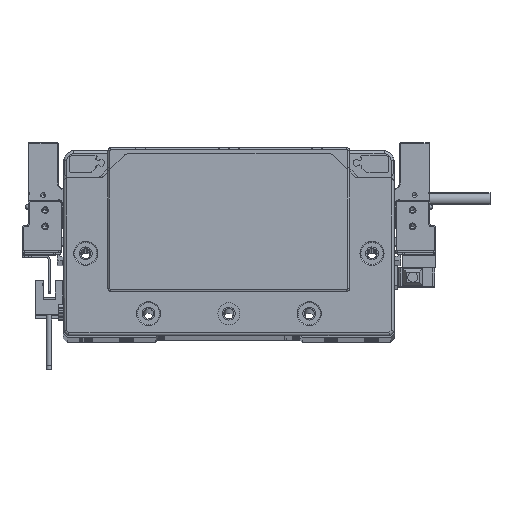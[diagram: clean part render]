
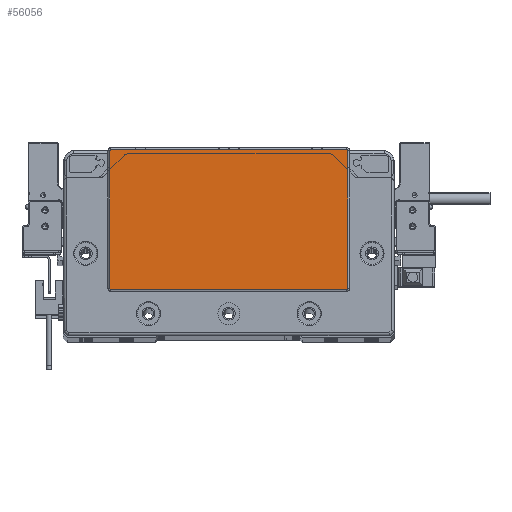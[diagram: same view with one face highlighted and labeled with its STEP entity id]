
A CAD part, top view. The second image highlights one B-rep face of the part: STEP entity #56056.
In plain terms, the highlighted planar face has unit normal (0, 0, 1) as drawn and (0, 0, -1) by its records, which use the part's own axes.
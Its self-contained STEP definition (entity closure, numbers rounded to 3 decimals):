
#1578 = VERTEX_POINT ( 'NONE', #29816 ) ;
#3463 = CARTESIAN_POINT ( 'NONE',  ( -58.75, 45.8, -2. ) ) ;
#4827 = CARTESIAN_POINT ( 'NONE',  ( -59.25, 45.3, -2. ) ) ;
#8332 = ORIENTED_EDGE ( 'NONE', *, *, #13210, .T. ) ;
#8390 = VERTEX_POINT ( 'NONE', #4827 ) ;
#8847 = FACE_OUTER_BOUND ( 'NONE', #54186, .T. ) ;
#9253 = DIRECTION ( 'NONE',  ( 0., -1., 0. ) ) ;
#9456 = LINE ( 'NONE', #96150, #20595 ) ;
#9964 = ORIENTED_EDGE ( 'NONE', *, *, #44891, .T. ) ;
#11448 = AXIS2_PLACEMENT_3D ( 'NONE', #16920, #70950, #94181 ) ;
#11550 = VECTOR ( 'NONE', #84797, 1000. ) ;
#12585 = EDGE_CURVE ( 'NONE', #36979, #1578, #87089, .T. ) ;
#12805 = CARTESIAN_POINT ( 'NONE',  ( 58.75, -23.8, -2. ) ) ;
#13210 = EDGE_CURVE ( 'NONE', #79851, #65577, #80651, .T. ) ;
#15166 = ORIENTED_EDGE ( 'NONE', *, *, #54060, .T. ) ;
#16840 = DIRECTION ( 'NONE',  ( -1., 0., 0. ) ) ;
#16920 = CARTESIAN_POINT ( 'NONE',  ( 0., 0., -2. ) ) ;
#17766 = AXIS2_PLACEMENT_3D ( 'NONE', #85007, #31038, #16840 ) ;
#18352 = CARTESIAN_POINT ( 'NONE',  ( 59.25, -23.3, -2. ) ) ;
#19404 = AXIS2_PLACEMENT_3D ( 'NONE', #57176, #33517, #78941 ) ;
#20595 = VECTOR ( 'NONE', #47811, 1000. ) ;
#23380 = VERTEX_POINT ( 'NONE', #69472 ) ;
#28342 = ORIENTED_EDGE ( 'NONE', *, *, #75053, .T. ) ;
#29816 = CARTESIAN_POINT ( 'NONE',  ( 59.25, 45.3, -2. ) ) ;
#30233 = CARTESIAN_POINT ( 'NONE',  ( -58.75, 45.3, -2. ) ) ;
#30829 = LINE ( 'NONE', #84318, #11550 ) ;
#31038 = DIRECTION ( 'NONE',  ( 0., 0., -1. ) ) ;
#31338 = AXIS2_PLACEMENT_3D ( 'NONE', #30233, #76633, #77127 ) ;
#32234 = ORIENTED_EDGE ( 'NONE', *, *, #65385, .T. ) ;
#33511 = VERTEX_POINT ( 'NONE', #3463 ) ;
#33517 = DIRECTION ( 'NONE',  ( 0., 0., -1. ) ) ;
#36979 = VERTEX_POINT ( 'NONE', #59711 ) ;
#40071 = LINE ( 'NONE', #78417, #56839 ) ;
#40659 = ORIENTED_EDGE ( 'NONE', *, *, #98576, .T. ) ;
#40671 = PLANE ( 'NONE',  #11448 ) ;
#43559 = CIRCLE ( 'NONE', #17766, 0.5 ) ;
#44891 = EDGE_CURVE ( 'NONE', #8390, #33511, #52253, .T. ) ;
#47811 = DIRECTION ( 'NONE',  ( -1., 0., 0. ) ) ;
#49970 = CARTESIAN_POINT ( 'NONE',  ( -58.75, -23.8, -2. ) ) ;
#52060 = ORIENTED_EDGE ( 'NONE', *, *, #57732, .T. ) ;
#52253 = CIRCLE ( 'NONE', #31338, 0.5 ) ;
#54060 = EDGE_CURVE ( 'NONE', #33511, #36979, #30829, .T. ) ;
#54186 = EDGE_LOOP ( 'NONE', ( #52060, #8332, #32234, #40659, #28342, #9964, #15166, #90548 ) ) ;
#56056 = ADVANCED_FACE ( 'NONE', ( #8847 ), #40671, .T. ) ;
#56839 = VECTOR ( 'NONE', #9253, 1000. ) ;
#57176 = CARTESIAN_POINT ( 'NONE',  ( 58.75, -23.3, -2. ) ) ;
#57732 = EDGE_CURVE ( 'NONE', #1578, #79851, #40071, .T. ) ;
#59711 = CARTESIAN_POINT ( 'NONE',  ( 58.75, 45.8, -2. ) ) ;
#65385 = EDGE_CURVE ( 'NONE', #65577, #99185, #9456, .T. ) ;
#65577 = VERTEX_POINT ( 'NONE', #12805 ) ;
#69154 = DIRECTION ( 'NONE',  ( 0., 1., 0. ) ) ;
#69472 = CARTESIAN_POINT ( 'NONE',  ( -59.25, -23.3, -2. ) ) ;
#70950 = DIRECTION ( 'NONE',  ( 0., 0., -1. ) ) ;
#71901 = VECTOR ( 'NONE', #69154, 1000. ) ;
#75053 = EDGE_CURVE ( 'NONE', #23380, #8390, #91914, .T. ) ;
#76078 = DIRECTION ( 'NONE',  ( -1., 0., 0. ) ) ;
#76241 = CARTESIAN_POINT ( 'NONE',  ( -59.25, 45.3, -2. ) ) ;
#76633 = DIRECTION ( 'NONE',  ( 0., 0., -1. ) ) ;
#77127 = DIRECTION ( 'NONE',  ( -1., 0., 0. ) ) ;
#78064 = CARTESIAN_POINT ( 'NONE',  ( 58.75, 45.3, -2. ) ) ;
#78417 = CARTESIAN_POINT ( 'NONE',  ( 59.25, -23.3, -2. ) ) ;
#78941 = DIRECTION ( 'NONE',  ( -1., 0., 0. ) ) ;
#79851 = VERTEX_POINT ( 'NONE', #18352 ) ;
#80651 = CIRCLE ( 'NONE', #19404, 0.5 ) ;
#84318 = CARTESIAN_POINT ( 'NONE',  ( 58.75, 45.8, -2. ) ) ;
#84797 = DIRECTION ( 'NONE',  ( 1., 0., 0. ) ) ;
#85007 = CARTESIAN_POINT ( 'NONE',  ( -58.75, -23.3, -2. ) ) ;
#87089 = CIRCLE ( 'NONE', #91926, 0.5 ) ;
#90548 = ORIENTED_EDGE ( 'NONE', *, *, #12585, .T. ) ;
#91914 = LINE ( 'NONE', #76241, #71901 ) ;
#91926 = AXIS2_PLACEMENT_3D ( 'NONE', #78064, #92240, #76078 ) ;
#92240 = DIRECTION ( 'NONE',  ( 0., 0., -1. ) ) ;
#94181 = DIRECTION ( 'NONE',  ( -1., 0., 0. ) ) ;
#96150 = CARTESIAN_POINT ( 'NONE',  ( -58.75, -23.8, -2. ) ) ;
#98576 = EDGE_CURVE ( 'NONE', #99185, #23380, #43559, .T. ) ;
#99185 = VERTEX_POINT ( 'NONE', #49970 ) ;
